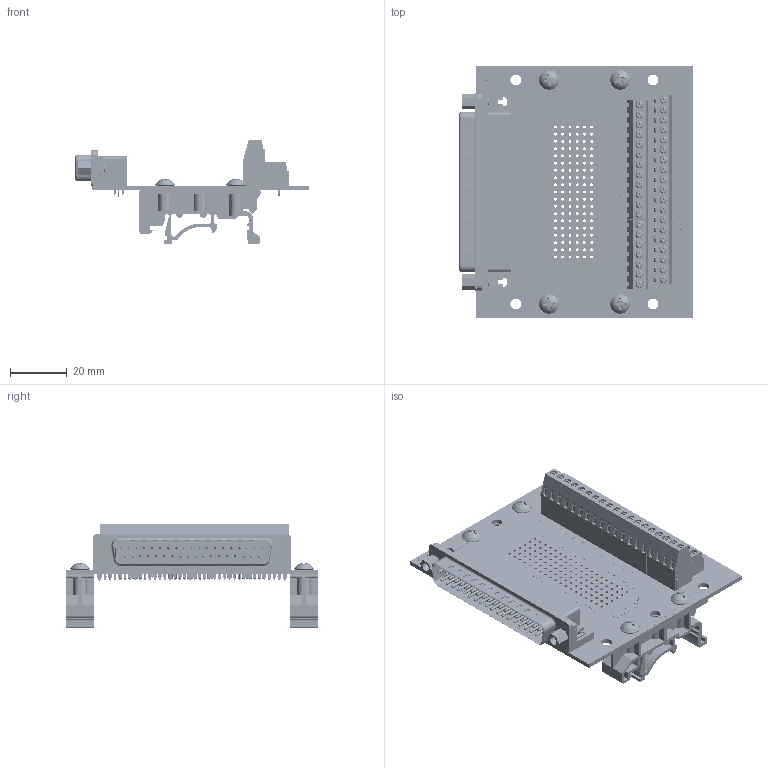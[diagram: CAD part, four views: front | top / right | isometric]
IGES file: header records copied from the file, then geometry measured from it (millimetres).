
Start section: SolidWorks IGES file using analytic representation for surfaces
Global section: file name: D:\Documents\Winford Engineering Jobs\BRKDD37M\brkdd37m-r-din_rev_a.igs; native system: SolidWorks 2017; preprocessor: SolidWorks 2017; author: mudhf; date: 190428.223033; units: inch
Bounding box: 82.1 x 88.9 x 36.77 mm (x, y, z)
Surface area: 61266.3 mm2 (no closed solid volume)
Topology: 0 solids, 0 shells, 18935 faces, 126799 edges, 126594 vertices
Faces by surface type: bspline 13941, revolution 4994
